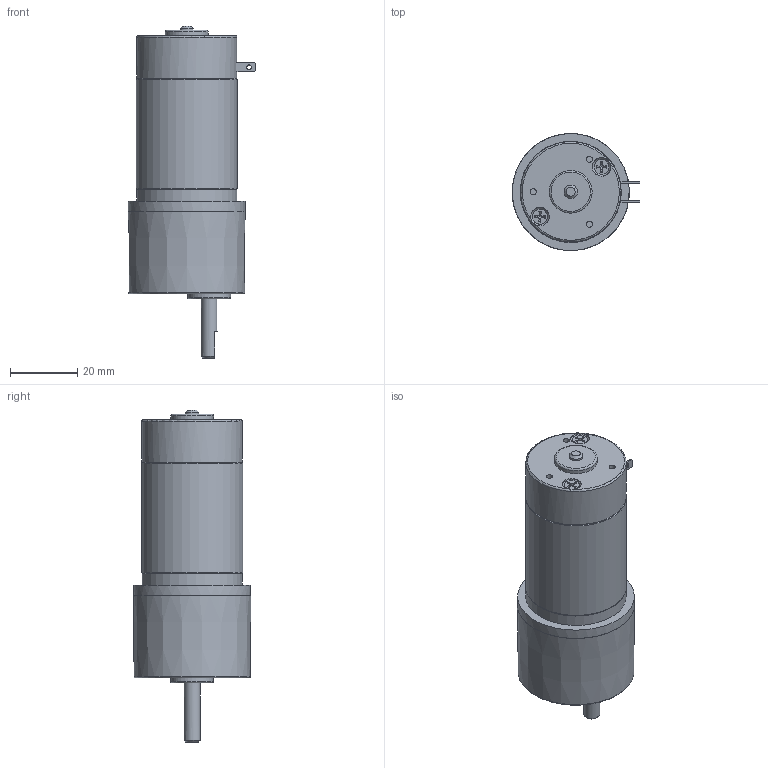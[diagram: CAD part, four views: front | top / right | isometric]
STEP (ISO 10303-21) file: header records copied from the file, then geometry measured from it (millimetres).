
FILE_DESCRIPTION((''),'2;1');
FILE_NAME('Z:\4_DC\새 폴더\RS3 SERIES\RS32ㅁㅁT(V,W).stp','2015-02-12T15:56:39',('kdhkdh'),(''),'Autodesk Inventor 2013','Autodesk Inventor 2013','');
FILE_SCHEMA(('AUTOMOTIVE_DESIGN { 1 0 10303 214 1 1 1 1 }'));
Length unit declared in the file: millimetre
Products named in the file (1): 부품2
Bounding box: 37.88 x 34.74 x 98.49 mm (x, y, z)
Volume: 60948.9 mm3; surface area: 10451.4 mm2
Topology: 1 solids, 6 shells, 205 faces, 522 edges, 343 vertices
Faces by surface type: plane 82, cylinder 56, cone 43, torus 24
Full cylindrical faces by diameter (mm): 1.362 x2, 1.8 x3, 2.156 x3, 2.5 x5, 2.6 x2, 2.7 x3, 4 x1, 4.4 x5, 4.76 x1, 5.5 x5, 12.7 x2, 29.8 x2, 30 x1, 34.7 x1
Entity records: 6256 total; most frequent: CARTESIAN_POINT 1725, DIRECTION 870, ORIENTED_EDGE 862, EDGE_CURVE 431, AXIS2_PLACEMENT_3D 377, VERTEX_POINT 314, EDGE_LOOP 295, FACE_OUTER_BOUND 205
